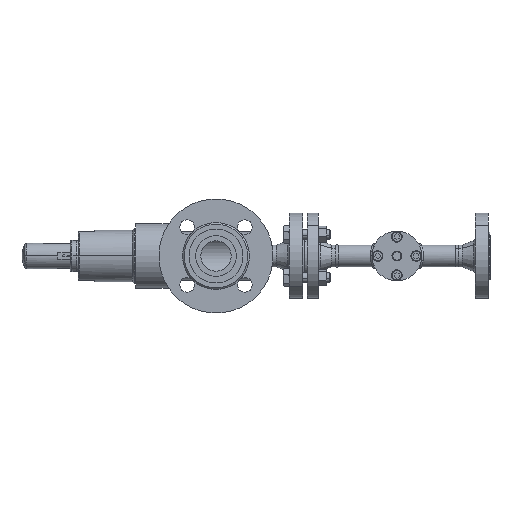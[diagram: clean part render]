
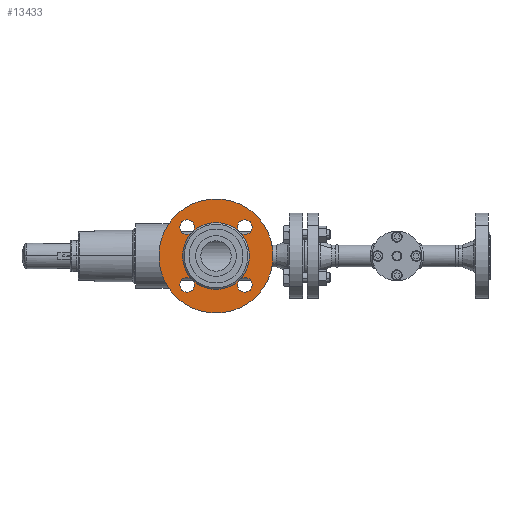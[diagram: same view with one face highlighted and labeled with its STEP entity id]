
A CAD part, front view. The second image highlights one B-rep face of the part: STEP entity #13433.
In plain terms, the highlighted planar face has unit normal (0, -1, 0).
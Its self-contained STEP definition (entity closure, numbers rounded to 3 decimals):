
#32825 = ORIENTED_EDGE ( 'NONE', *, *, #30336, .T. ) ;
#337 = CIRCLE ( 'NONE', #338, 9. ) ;
#338 = AXIS2_PLACEMENT_3D ( 'NONE', #339, #340, #341 ) ;
#339 = CARTESIAN_POINT ( 'NONE',  ( 0., 2., -50. ) ) ;
#340 = DIRECTION ( 'NONE',  ( 0., 1., 0. ) ) ;
#341 = DIRECTION ( 'NONE',  ( -1., 0., 0. ) ) ;
#596 = CIRCLE ( 'NONE', #635, 9. ) ;
#635 = AXIS2_PLACEMENT_3D ( 'NONE', #636, #637, #638 ) ;
#636 = CARTESIAN_POINT ( 'NONE',  ( 0., 2., -50. ) ) ;
#637 = DIRECTION ( 'NONE',  ( 0., 1., 0. ) ) ;
#638 = DIRECTION ( 'NONE',  ( -1., 0., 0. ) ) ;
#33906 = ORIENTED_EDGE ( 'NONE', *, *, #19219, .T. ) ;
#17575 = ORIENTED_EDGE ( 'NONE', *, *, #28772, .T. ) ;
#17798 = CIRCLE ( 'NONE', #17799, 9. ) ;
#17799 = AXIS2_PLACEMENT_3D ( 'NONE', #17800, #17801, #17802 ) ;
#17800 = CARTESIAN_POINT ( 'NONE',  ( 50., 2., 0. ) ) ;
#17801 = DIRECTION ( 'NONE',  ( 0., 1., 0. ) ) ;
#17802 = DIRECTION ( 'NONE',  ( -1., 0., 0. ) ) ;
#1617 = CIRCLE ( 'NONE', #1618, 9. ) ;
#1618 = AXIS2_PLACEMENT_3D ( 'NONE', #1619, #1620, #1621 ) ;
#1619 = CARTESIAN_POINT ( 'NONE',  ( 0., 2., -50. ) ) ;
#1620 = DIRECTION ( 'NONE',  ( 0., 1., 0. ) ) ;
#1621 = DIRECTION ( 'NONE',  ( -1., 0., 0. ) ) ;
#18310 = VERTEX_POINT ( 'NONE', #35346 ) ;
#34879 = EDGE_CURVE ( 'NONE', #14577, #14127, #24106, .T. ) ;
#18654 = ORIENTED_EDGE ( 'NONE', *, *, #28510, .T. ) ;
#18768 = VERTEX_POINT ( 'NONE', #36149 ) ;
#35271 = EDGE_CURVE ( 'NONE', #30614, #18768, #24835, .T. ) ;
#35346 = CARTESIAN_POINT ( 'NONE',  ( 0., 2., 41. ) ) ;
#19219 = EDGE_CURVE ( 'NONE', #18768, #18310, #36861, .T. ) ;
#19716 = EDGE_CURVE ( 'NONE', #9218, #9683, #38014, .T. ) ;
#19737 = FACE_OUTER_BOUND ( 'NONE', #12929, .T. ) ;
#19738 = FACE_BOUND ( 'NONE', #9945, .T. ) ;
#19764 = PLANE ( 'NONE',  #19765 ) ;
#19765 = AXIS2_PLACEMENT_3D ( 'NONE', #19766, #19767, #19768 ) ;
#19766 = CARTESIAN_POINT ( 'NONE',  ( 41., 2., 0. ) ) ;
#19767 = DIRECTION ( 'NONE',  ( 0., 1., 0. ) ) ;
#19768 = DIRECTION ( 'NONE',  ( -1., 0., 0. ) ) ;
#36149 = CARTESIAN_POINT ( 'NONE',  ( 9., 2., 50. ) ) ;
#36782 = EDGE_CURVE ( 'NONE', #14127, #14577, #26017, .T. ) ;
#36861 = CIRCLE ( 'NONE', #36862, 9. ) ;
#36862 = AXIS2_PLACEMENT_3D ( 'NONE', #36863, #36864, #36865 ) ;
#36863 = CARTESIAN_POINT ( 'NONE',  ( 0., 2., 50. ) ) ;
#36864 = DIRECTION ( 'NONE',  ( 0., 1., 0. ) ) ;
#20493 = ORIENTED_EDGE ( 'NONE', *, *, #19716, .T. ) ;
#36865 = DIRECTION ( 'NONE',  ( -1., 0., 0. ) ) ;
#21560 = ORIENTED_EDGE ( 'NONE', *, *, #10139, .T. ) ;
#38014 = CIRCLE ( 'NONE', #38015, 9. ) ;
#38015 = AXIS2_PLACEMENT_3D ( 'NONE', #38016, #38017, #38061 ) ;
#38016 = CARTESIAN_POINT ( 'NONE',  ( -50., 2., 0. ) ) ;
#38017 = DIRECTION ( 'NONE',  ( 0., 1., 0. ) ) ;
#38061 = DIRECTION ( 'NONE',  ( -1., 0., 0. ) ) ;
#22642 = ORIENTED_EDGE ( 'NONE', *, *, #11390, .T. ) ;
#6490 = CARTESIAN_POINT ( 'NONE',  ( 41., 2., 0. ) ) ;
#7028 = EDGE_CURVE ( 'NONE', #10937, #42180, #337, .T. ) ;
#23724 = EDGE_CURVE ( 'NONE', #41530, #10937, #1617, .T. ) ;
#7502 = CIRCLE ( 'NONE', #7503, 41. ) ;
#7503 = AXIS2_PLACEMENT_3D ( 'NONE', #7504, #7505, #7506 ) ;
#7504 = CARTESIAN_POINT ( 'NONE',  ( 0., 2., 0. ) ) ;
#7505 = DIRECTION ( 'NONE',  ( 0., 1., 0. ) ) ;
#7506 = DIRECTION ( 'NONE',  ( -1., 0., 0. ) ) ;
#7646 = CARTESIAN_POINT ( 'NONE',  ( -59., 2., 0. ) ) ;
#24106 = CIRCLE ( 'NONE', #24107, 70. ) ;
#24107 = AXIS2_PLACEMENT_3D ( 'NONE', #24108, #24132, #24133 ) ;
#24108 = CARTESIAN_POINT ( 'NONE',  ( 0., 2., 0. ) ) ;
#24132 = DIRECTION ( 'NONE',  ( 0., 1., 0. ) ) ;
#24133 = DIRECTION ( 'NONE',  ( -1., 0., 0. ) ) ;
#7791 = ORIENTED_EDGE ( 'NONE', *, *, #7028, .T. ) ;
#8033 = CARTESIAN_POINT ( 'NONE',  ( -41., 2., 0. ) ) ;
#24491 = ORIENTED_EDGE ( 'NONE', *, *, #23724, .T. ) ;
#8433 = CARTESIAN_POINT ( 'NONE',  ( 59., 2., 0. ) ) ;
#24835 = CIRCLE ( 'NONE', #24836, 9. ) ;
#24836 = AXIS2_PLACEMENT_3D ( 'NONE', #24837, #24856, #24857 ) ;
#24837 = CARTESIAN_POINT ( 'NONE',  ( 0., 2., 50. ) ) ;
#24856 = DIRECTION ( 'NONE',  ( 0., 1., 0. ) ) ;
#24857 = DIRECTION ( 'NONE',  ( -1., 0., 0. ) ) ;
#24916 = VERTEX_POINT ( 'NONE', #6490 ) ;
#41530 = VERTEX_POINT ( 'NONE', #42602 ) ;
#25200 = VERTEX_POINT ( 'NONE', #8433 ) ;
#8873 = ORIENTED_EDGE ( 'NONE', *, *, #9096, .T. ) ;
#8943 = CIRCLE ( 'NONE', #8944, 9. ) ;
#8944 = AXIS2_PLACEMENT_3D ( 'NONE', #8945, #8946, #8947 ) ;
#8945 = CARTESIAN_POINT ( 'NONE',  ( 50., 2., 0. ) ) ;
#8946 = DIRECTION ( 'NONE',  ( 0., 1., 0. ) ) ;
#8947 = DIRECTION ( 'NONE',  ( -1., 0., 0. ) ) ;
#25419 = ORIENTED_EDGE ( 'NONE', *, *, #42842, .T. ) ;
#9096 = EDGE_CURVE ( 'NONE', #24916, #10937, #7502, .T. ) ;
#9218 = VERTEX_POINT ( 'NONE', #7646 ) ;
#25648 = EDGE_CURVE ( 'NONE', #25200, #24916, #8943, .T. ) ;
#42180 = VERTEX_POINT ( 'NONE', #43096 ) ;
#9570 = CIRCLE ( 'NONE', #9571, 9. ) ;
#9571 = AXIS2_PLACEMENT_3D ( 'NONE', #9572, #9573, #9574 ) ;
#9572 = CARTESIAN_POINT ( 'NONE',  ( -50., 2., 0. ) ) ;
#9573 = DIRECTION ( 'NONE',  ( 0., 1., 0. ) ) ;
#9574 = DIRECTION ( 'NONE',  ( -1., 0., 0. ) ) ;
#26017 = CIRCLE ( 'NONE', #26018, 70. ) ;
#26018 = AXIS2_PLACEMENT_3D ( 'NONE', #26019, #26048, #26049 ) ;
#26019 = CARTESIAN_POINT ( 'NONE',  ( 0., 2., 0. ) ) ;
#26048 = DIRECTION ( 'NONE',  ( 0., 1., 0. ) ) ;
#26049 = DIRECTION ( 'NONE',  ( -1., 0., 0. ) ) ;
#9683 = VERTEX_POINT ( 'NONE', #8033 ) ;
#42602 = CARTESIAN_POINT ( 'NONE',  ( -9., 2., -50. ) ) ;
#9945 = EDGE_LOOP ( 'NONE', ( #8873, #7791, #25419, #24491, #22642, #21560, #20493, #18654, #17575, #16142, #33906, #32825, #31753, #29914 ) ) ;
#42842 = EDGE_CURVE ( 'NONE', #42180, #41530, #596, .T. ) ;
#10105 = CARTESIAN_POINT ( 'NONE',  ( 0., 2., -41. ) ) ;
#10139 = EDGE_CURVE ( 'NONE', #9683, #9218, #9570, .T. ) ;
#43096 = CARTESIAN_POINT ( 'NONE',  ( 9., 2., -50. ) ) ;
#10427 = ORIENTED_EDGE ( 'NONE', *, *, #36782, .F. ) ;
#10937 = VERTEX_POINT ( 'NONE', #10105 ) ;
#11390 = EDGE_CURVE ( 'NONE', #10937, #9683, #12603, .T. ) ;
#11854 = ORIENTED_EDGE ( 'NONE', *, *, #34879, .F. ) ;
#28510 = EDGE_CURVE ( 'NONE', #9683, #18310, #13111, .T. ) ;
#28772 = EDGE_CURVE ( 'NONE', #18310, #30614, #13575, .T. ) ;
#12603 = CIRCLE ( 'NONE', #12604, 41. ) ;
#12604 = AXIS2_PLACEMENT_3D ( 'NONE', #12628, #12629, #12630 ) ;
#12628 = CARTESIAN_POINT ( 'NONE',  ( 0., 2., 0. ) ) ;
#12629 = DIRECTION ( 'NONE',  ( 0., 1., 0. ) ) ;
#12630 = DIRECTION ( 'NONE',  ( -1., 0., 0. ) ) ;
#29018 = CARTESIAN_POINT ( 'NONE',  ( 70., 2., 0. ) ) ;
#12929 = EDGE_LOOP ( 'NONE', ( #11854, #10427 ) ) ;
#29434 = CARTESIAN_POINT ( 'NONE',  ( -70., 2., 0. ) ) ;
#13111 = CIRCLE ( 'NONE', #13112, 41. ) ;
#13112 = AXIS2_PLACEMENT_3D ( 'NONE', #13113, #13114, #13115 ) ;
#13113 = CARTESIAN_POINT ( 'NONE',  ( 0., 2., 0. ) ) ;
#13114 = DIRECTION ( 'NONE',  ( 0., 1., 0. ) ) ;
#13115 = DIRECTION ( 'NONE',  ( -1., 0., 0. ) ) ;
#13433 = ADVANCED_FACE ( 'NONE', ( #19737, #19738 ), #19764, .F. ) ;
#29914 = ORIENTED_EDGE ( 'NONE', *, *, #25648, .T. ) ;
#13575 = CIRCLE ( 'NONE', #13576, 9. ) ;
#13576 = AXIS2_PLACEMENT_3D ( 'NONE', #13577, #13578, #13579 ) ;
#13577 = CARTESIAN_POINT ( 'NONE',  ( 0., 2., 50. ) ) ;
#13578 = DIRECTION ( 'NONE',  ( 0., 1., 0. ) ) ;
#13579 = DIRECTION ( 'NONE',  ( -1., 0., 0. ) ) ;
#30336 = EDGE_CURVE ( 'NONE', #18310, #24916, #15493, .T. ) ;
#14127 = VERTEX_POINT ( 'NONE', #29018 ) ;
#30614 = VERTEX_POINT ( 'NONE', #15934 ) ;
#14577 = VERTEX_POINT ( 'NONE', #29434 ) ;
#30991 = EDGE_CURVE ( 'NONE', #24916, #25200, #17798, .T. ) ;
#31753 = ORIENTED_EDGE ( 'NONE', *, *, #30991, .T. ) ;
#15493 = CIRCLE ( 'NONE', #15494, 41. ) ;
#15494 = AXIS2_PLACEMENT_3D ( 'NONE', #15495, #15496, #15497 ) ;
#15495 = CARTESIAN_POINT ( 'NONE',  ( 0., 2., 0. ) ) ;
#15496 = DIRECTION ( 'NONE',  ( 0., 1., 0. ) ) ;
#15497 = DIRECTION ( 'NONE',  ( -1., 0., 0. ) ) ;
#15934 = CARTESIAN_POINT ( 'NONE',  ( -9., 2., 50. ) ) ;
#16142 = ORIENTED_EDGE ( 'NONE', *, *, #35271, .T. ) ;
